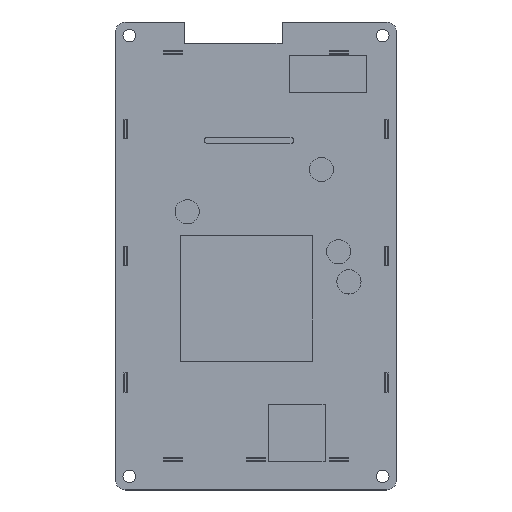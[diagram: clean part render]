
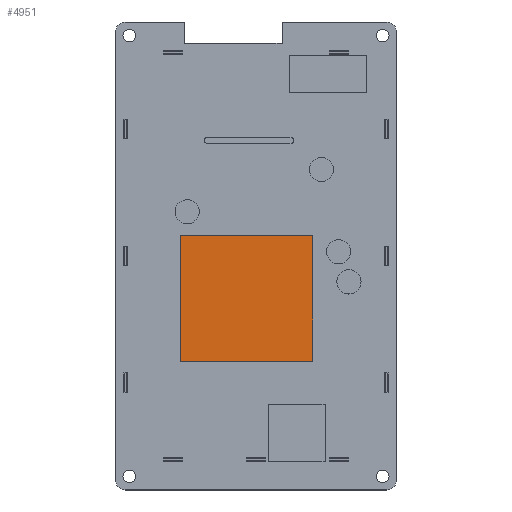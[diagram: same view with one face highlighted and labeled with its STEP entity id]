
A CAD part, top view. The second image highlights one B-rep face of the part: STEP entity #4951.
In plain terms, the highlighted planar face has unit normal (0, 0, 1).
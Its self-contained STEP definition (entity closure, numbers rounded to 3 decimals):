
#1424=DIRECTION('',(-1.,0.,0.));
#1425=VECTOR('',#1424,34.417);
#1426=CARTESIAN_POINT('',(14.783,5.334,5.2));
#1427=LINE('',#1426,#1425);
#1428=DIRECTION('',(0.,1.,0.));
#1429=VECTOR('',#1428,32.766);
#1430=CARTESIAN_POINT('',(14.783,-27.432,5.2));
#1431=LINE('',#1430,#1429);
#1432=DIRECTION('',(1.,0.,0.));
#1433=VECTOR('',#1432,34.417);
#1434=CARTESIAN_POINT('',(-19.634,-27.432,5.2));
#1435=LINE('',#1434,#1433);
#1436=DIRECTION('',(0.,-1.,0.));
#1437=VECTOR('',#1436,32.766);
#1438=CARTESIAN_POINT('',(-19.634,5.334,5.2));
#1439=LINE('',#1438,#1437);
#2768=CARTESIAN_POINT('',(14.783,5.334,5.2));
#2769=CARTESIAN_POINT('',(-19.634,5.334,5.2));
#2770=VERTEX_POINT('',#2768);
#2771=VERTEX_POINT('',#2769);
#2772=CARTESIAN_POINT('',(-19.634,-27.432,5.2));
#2773=VERTEX_POINT('',#2772);
#2774=CARTESIAN_POINT('',(14.783,-27.432,5.2));
#2775=VERTEX_POINT('',#2774);
#4940=CARTESIAN_POINT('',(-36.576,58.42,5.2));
#4941=DIRECTION('',(0.,0.,1.));
#4942=DIRECTION('',(0.,-1.,0.));
#4943=AXIS2_PLACEMENT_3D('',#4940,#4941,#4942);
#4944=PLANE('',#4943);
#4945=ORIENTED_EDGE('',*,*,#4892,.F.);
#4946=ORIENTED_EDGE('',*,*,#4907,.F.);
#4947=ORIENTED_EDGE('',*,*,#4921,.F.);
#4948=ORIENTED_EDGE('',*,*,#4934,.F.);
#4949=EDGE_LOOP('',(#4945,#4946,#4947,#4948));
#4950=FACE_OUTER_BOUND('',#4949,.F.);
#4892=EDGE_CURVE('',#2770,#2771,#1427,.T.);
#4907=EDGE_CURVE('',#2775,#2770,#1431,.T.);
#4921=EDGE_CURVE('',#2773,#2775,#1435,.T.);
#4934=EDGE_CURVE('',#2771,#2773,#1439,.T.);
#4951=ADVANCED_FACE('',(#4950),#4944,.T.);
